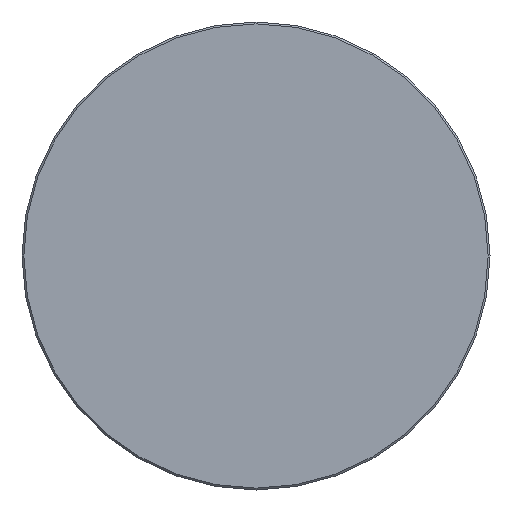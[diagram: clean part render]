
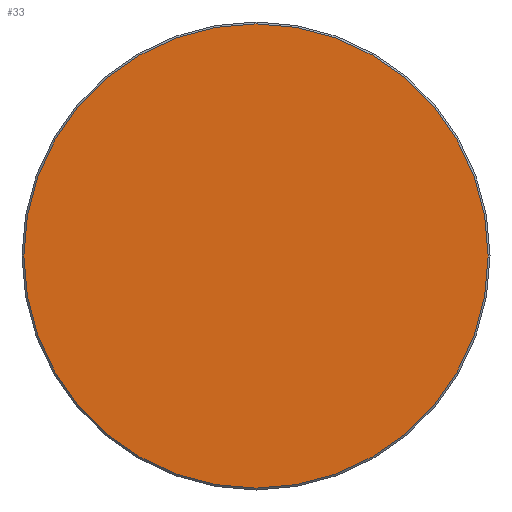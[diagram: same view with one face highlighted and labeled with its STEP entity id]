
A CAD part, left-side view. The second image highlights one B-rep face of the part: STEP entity #33.
In plain terms, the highlighted planar face has unit normal (-1, 0, 0).
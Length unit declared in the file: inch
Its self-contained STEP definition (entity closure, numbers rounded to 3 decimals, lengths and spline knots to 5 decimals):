
#33 = ADVANCED_FACE ( 'NONE', ( #362 ), #49, .T. ) ;
#44 = CARTESIAN_POINT ( 'NONE',  ( 0., -0.496, 0. ) ) ;
#45 = CIRCLE ( 'NONE', #58, 0.496 ) ;
#49 = PLANE ( 'NONE',  #66 ) ;
#58 = AXIS2_PLACEMENT_3D ( 'NONE', #374, #74, #274 ) ;
#66 = AXIS2_PLACEMENT_3D ( 'NONE', #248, #284, #138 ) ;
#69 = EDGE_CURVE ( 'NONE', #264, #331, #174, .T. ) ;
#74 = DIRECTION ( 'NONE',  ( -1., 0., 0. ) ) ;
#123 = EDGE_LOOP ( 'NONE', ( #272, #269 ) ) ;
#138 = DIRECTION ( 'NONE',  ( 0., -1., 0. ) ) ;
#161 = DIRECTION ( 'NONE',  ( 0., -1., 0. ) ) ;
#174 = CIRCLE ( 'NONE', #290, 0.496 ) ;
#188 = CARTESIAN_POINT ( 'NONE',  ( 0., 0.496, 0. ) ) ;
#248 = CARTESIAN_POINT ( 'NONE',  ( 0., 0., 0. ) ) ;
#255 = DIRECTION ( 'NONE',  ( -1., 0., 0. ) ) ;
#260 = EDGE_CURVE ( 'NONE', #331, #264, #45, .T. ) ;
#264 = VERTEX_POINT ( 'NONE', #44 ) ;
#269 = ORIENTED_EDGE ( 'NONE', *, *, #69, .T. ) ;
#272 = ORIENTED_EDGE ( 'NONE', *, *, #260, .T. ) ;
#274 = DIRECTION ( 'NONE',  ( 0., -1., 0. ) ) ;
#281 = CARTESIAN_POINT ( 'NONE',  ( 0., 0., 0. ) ) ;
#284 = DIRECTION ( 'NONE',  ( -1., 0., 0. ) ) ;
#290 = AXIS2_PLACEMENT_3D ( 'NONE', #281, #255, #161 ) ;
#331 = VERTEX_POINT ( 'NONE', #188 ) ;
#362 = FACE_OUTER_BOUND ( 'NONE', #123, .T. ) ;
#374 = CARTESIAN_POINT ( 'NONE',  ( 0., 0., 0. ) ) ;
